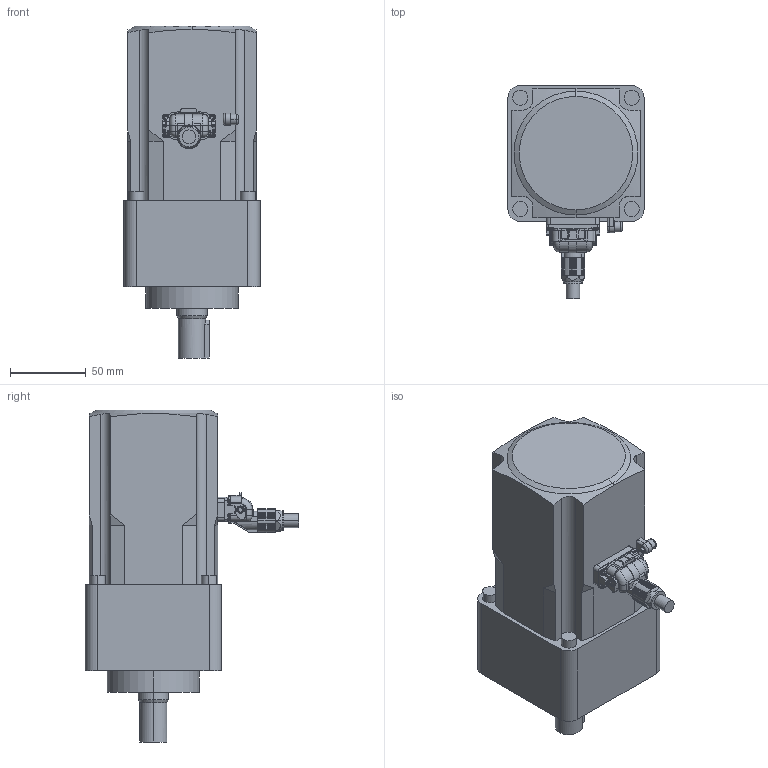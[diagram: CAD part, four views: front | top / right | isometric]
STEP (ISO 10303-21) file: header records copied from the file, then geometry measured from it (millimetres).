
FILE_DESCRIPTION (( 'STEP AP203' ), '1' );
FILE_NAME ('B1633A_V.step', '2025-07-03T05:55:05', ( '' ), ( '' ), 'SwSTEP 2.0', 'SolidWorks 2023', '' );
FILE_SCHEMA (( 'CONFIG_CONTROL_DESIGN' ));
Length unit declared in the file: millimetre
Products named in the file (1): B1633A_V
Bounding box: 90 x 141.1 x 219.5 mm (x, y, z)
Volume: 1258609.5 mm3; surface area: 86561.4 mm2
Topology: 1 solids, 9 shells, 636 faces, 1709 edges, 1099 vertices
Faces by surface type: plane 352, cylinder 233, cone 34, torus 13, sphere 4
Entity records: 20061 total; most frequent: CARTESIAN_POINT 3733, DIRECTION 3494, ORIENTED_EDGE 3382, EDGE_CURVE 1691, AXIS2_PLACEMENT_3D 1202, VERTEX_POINT 1099, VECTOR 1090, LINE 1090
